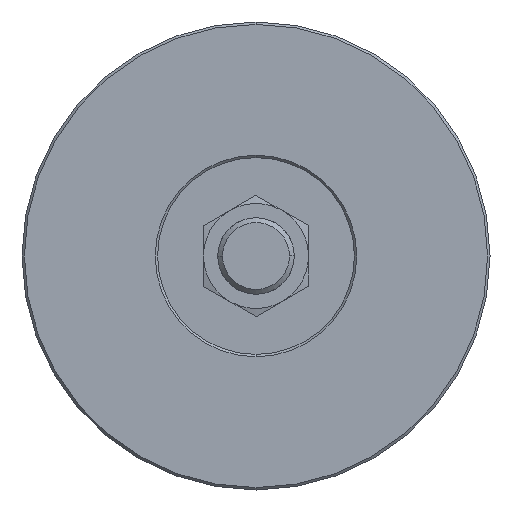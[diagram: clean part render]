
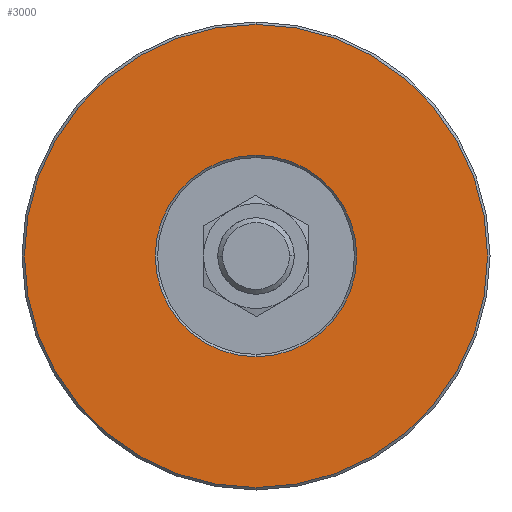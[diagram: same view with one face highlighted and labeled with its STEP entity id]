
A CAD part, front view. The second image highlights one B-rep face of the part: STEP entity #3000.
In plain terms, the highlighted planar face has unit normal (0, -1, 0).
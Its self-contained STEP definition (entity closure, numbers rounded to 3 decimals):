
#379 = CARTESIAN_POINT ( 'NONE',  ( 0., 0., 48.5 ) ) ;
#510 = VERTEX_POINT ( 'NONE', #7151 ) ;
#626 = FACE_BOUND ( 'NONE', #7452, .T. ) ;
#693 = EDGE_CURVE ( 'NONE', #8415, #1287, #3083, .T. ) ;
#783 = DIRECTION ( 'NONE',  ( 0., 0., -1. ) ) ;
#906 = DIRECTION ( 'NONE',  ( 0., -1., 0. ) ) ;
#1105 = AXIS2_PLACEMENT_3D ( 'NONE', #7169, #5108, #4362 ) ;
#1287 = VERTEX_POINT ( 'NONE', #379 ) ;
#1382 = CARTESIAN_POINT ( 'NONE',  ( 0., 0., 0. ) ) ;
#1481 = DIRECTION ( 'NONE',  ( 0., 0., -1. ) ) ;
#2345 = CIRCLE ( 'NONE', #3333, 21.1 ) ;
#2446 = EDGE_CURVE ( 'NONE', #2766, #510, #2345, .T. ) ;
#2766 = VERTEX_POINT ( 'NONE', #6727 ) ;
#2982 = DIRECTION ( 'NONE',  ( 0., 0., -1. ) ) ;
#3000 = ADVANCED_FACE ( 'NONE', ( #7199, #626 ), #5029, .T. ) ;
#3083 = CIRCLE ( 'NONE', #4326, 48.5 ) ;
#3293 = ORIENTED_EDGE ( 'NONE', *, *, #6605, .T. ) ;
#3333 = AXIS2_PLACEMENT_3D ( 'NONE', #7906, #3757, #8605 ) ;
#3462 = DIRECTION ( 'NONE',  ( 0., -1., 0. ) ) ;
#3732 = ORIENTED_EDGE ( 'NONE', *, *, #8337, .T. ) ;
#3757 = DIRECTION ( 'NONE',  ( 0., 1., 0. ) ) ;
#4307 = ORIENTED_EDGE ( 'NONE', *, *, #693, .T. ) ;
#4326 = AXIS2_PLACEMENT_3D ( 'NONE', #6981, #3462, #1481 ) ;
#4327 = EDGE_LOOP ( 'NONE', ( #3293, #4307 ) ) ;
#4362 = DIRECTION ( 'NONE',  ( 0., 0., -1. ) ) ;
#5029 = PLANE ( 'NONE',  #7979 ) ;
#5108 = DIRECTION ( 'NONE',  ( 0., 1., 0. ) ) ;
#5970 = CIRCLE ( 'NONE', #7096, 48.5 ) ;
#6605 = EDGE_CURVE ( 'NONE', #1287, #8415, #5970, .T. ) ;
#6727 = CARTESIAN_POINT ( 'NONE',  ( 0., 0., -21.1 ) ) ;
#6943 = DIRECTION ( 'NONE',  ( 0., -1., 0. ) ) ;
#6981 = CARTESIAN_POINT ( 'NONE',  ( 0., 0., 0. ) ) ;
#7096 = AXIS2_PLACEMENT_3D ( 'NONE', #1382, #6943, #783 ) ;
#7151 = CARTESIAN_POINT ( 'NONE',  ( 0., 0., 21.1 ) ) ;
#7161 = CIRCLE ( 'NONE', #1105, 21.1 ) ;
#7169 = CARTESIAN_POINT ( 'NONE',  ( 0., 0., 0. ) ) ;
#7174 = ORIENTED_EDGE ( 'NONE', *, *, #2446, .T. ) ;
#7199 = FACE_OUTER_BOUND ( 'NONE', #4327, .T. ) ;
#7452 = EDGE_LOOP ( 'NONE', ( #7174, #3732 ) ) ;
#7754 = CARTESIAN_POINT ( 'NONE',  ( 20.6, 0., 0. ) ) ;
#7906 = CARTESIAN_POINT ( 'NONE',  ( 0., 0., 0. ) ) ;
#7915 = CARTESIAN_POINT ( 'NONE',  ( 0., 0., -48.5 ) ) ;
#7979 = AXIS2_PLACEMENT_3D ( 'NONE', #7754, #906, #2982 ) ;
#8337 = EDGE_CURVE ( 'NONE', #510, #2766, #7161, .T. ) ;
#8415 = VERTEX_POINT ( 'NONE', #7915 ) ;
#8605 = DIRECTION ( 'NONE',  ( 0., 0., -1. ) ) ;
